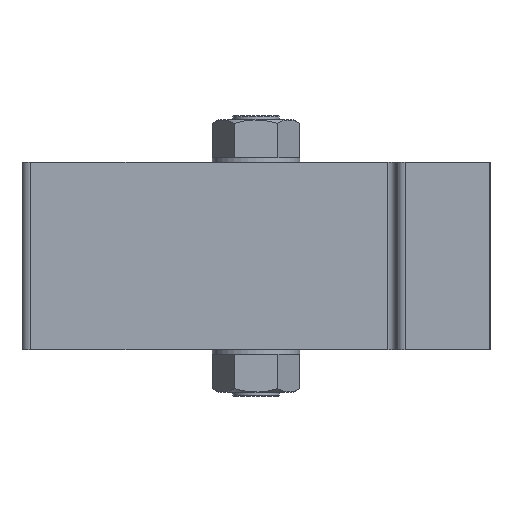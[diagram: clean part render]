
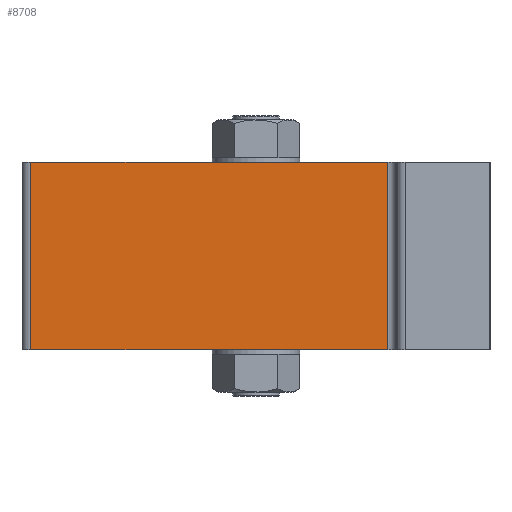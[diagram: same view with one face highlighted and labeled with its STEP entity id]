
A CAD part, left-side view. The second image highlights one B-rep face of the part: STEP entity #8708.
In plain terms, the highlighted planar face has unit normal (-1, 0, 0).
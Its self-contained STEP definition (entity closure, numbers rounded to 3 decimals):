
#6571=CARTESIAN_POINT('',(-40.,38.5,32.0));
#6572=VERTEX_POINT('',#6571);
#6580=CARTESIAN_POINT('',(-40.0,-22.5,32.0));
#6581=VERTEX_POINT('',#6580);
#6582=CARTESIAN_POINT('',(-40.0,-22.5,32.0));
#6583=DIRECTION('',(0.0,1.0,0.0));
#6584=VECTOR('',#6583,61.0);
#6585=LINE('',#6582,#6584);
#6586=EDGE_CURVE('',#6581,#6572,#6585,.T.);
#8666=CARTESIAN_POINT('',(-40.0,-22.5,0.0));
#8667=VERTEX_POINT('',#8666);
#8668=CARTESIAN_POINT('',(-40.0,-22.5,0.0));
#8669=DIRECTION('',(0.0,0.0,1.0));
#8670=VECTOR('',#8669,32.0);
#8671=LINE('',#8668,#8670);
#8672=EDGE_CURVE('',#8667,#6581,#8671,.T.);
#8685=CARTESIAN_POINT('',(-40.0,-22.5,0.0));
#8686=DIRECTION('',(-1.0,0.0,0.0));
#8687=DIRECTION('',(0.0,0.0,1.0));
#8688=AXIS2_PLACEMENT_3D('',#8685,#8686,#8687);
#8689=PLANE('',#8688);
#8690=ORIENTED_EDGE('',*,*,#6586,.T.);
#8691=CARTESIAN_POINT('',(-40.,38.5,0.0));
#8692=VERTEX_POINT('',#8691);
#8693=CARTESIAN_POINT('',(-40.,38.5,0.0));
#8694=DIRECTION('',(0.0,0.0,1.0));
#8695=VECTOR('',#8694,32.0);
#8696=LINE('',#8693,#8695);
#8697=EDGE_CURVE('',#8692,#6572,#8696,.T.);
#8698=ORIENTED_EDGE('',*,*,#8697,.F.);
#8699=CARTESIAN_POINT('',(-40.0,-22.5,0.0));
#8700=DIRECTION('',(0.0,1.0,0.0));
#8701=VECTOR('',#8700,61.0);
#8702=LINE('',#8699,#8701);
#8703=EDGE_CURVE('',#8667,#8692,#8702,.T.);
#8704=ORIENTED_EDGE('',*,*,#8703,.F.);
#8705=ORIENTED_EDGE('',*,*,#8672,.T.);
#8706=EDGE_LOOP('',(#8690,#8698,#8704,#8705));
#8707=FACE_OUTER_BOUND('',#8706,.T.);
#8708=ADVANCED_FACE('',(#8707),#8689,.T.);
